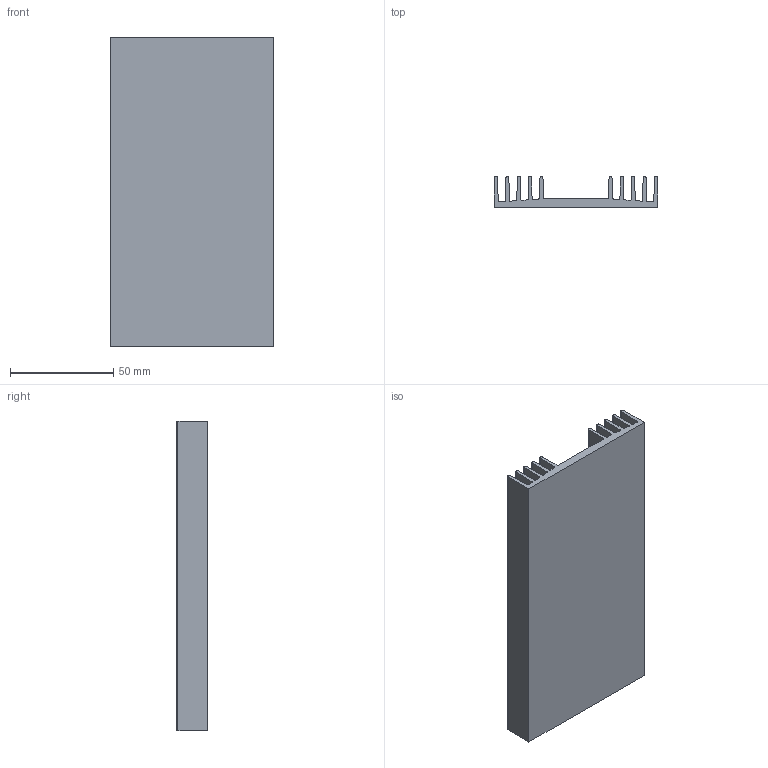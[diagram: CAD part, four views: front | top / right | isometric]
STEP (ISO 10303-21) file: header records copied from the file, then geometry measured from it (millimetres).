
FILE_DESCRIPTION (( 'STEP AP203' ), '1' );
FILE_NAME ('PR 65-150.step', '2002-10-21T08:55:24', ( 'Wolfgang Müller' ), ( 'DPS' ), 'SwSTEP 2.0', 'SolidWorks 2002264', '' );
FILE_SCHEMA (( 'CONFIG_CONTROL_DESIGN' ));
Length unit declared in the file: millimetre
Products named in the file (1): PR 65-150
Bounding box: 79 x 15 x 150 mm (x, y, z)
Volume: 70971.2 mm3; surface area: 58497.6 mm2
Topology: 1 solids, 1 shells, 60 faces, 174 edges, 116 vertices
Faces by surface type: plane 32, cylinder 28
Entity records: 2071 total; most frequent: DIRECTION 352, CARTESIAN_POINT 351, ORIENTED_EDGE 348, EDGE_CURVE 174, LINE 118, VECTOR 118, AXIS2_PLACEMENT_3D 117, VERTEX_POINT 116
